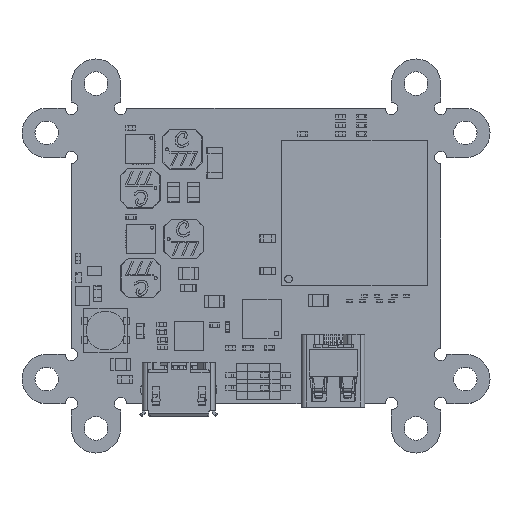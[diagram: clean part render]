
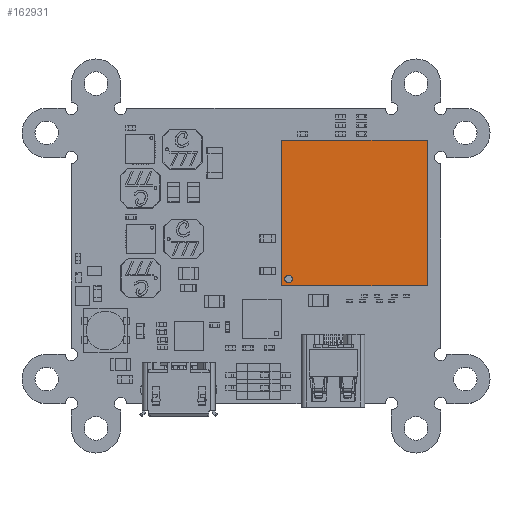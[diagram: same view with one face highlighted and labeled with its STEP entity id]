
A CAD part, top view. The second image highlights one B-rep face of the part: STEP entity #162931.
In plain terms, the highlighted planar face has unit normal (0, 0, 1).
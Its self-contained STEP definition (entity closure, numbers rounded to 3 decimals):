
#162617 = VERTEX_POINT('',#162618);
#162618 = CARTESIAN_POINT('',(-7.5,-7.5,1.25));
#162625 = PLANE('',#162626);
#162626 = AXIS2_PLACEMENT_3D('',#162627,#162628,#162629);
#162627 = CARTESIAN_POINT('',(-7.5,-7.5,0.));
#162628 = DIRECTION('',(0.,1.,0.));
#162629 = DIRECTION('',(1.,0.,0.));
#162637 = PLANE('',#162638);
#162638 = AXIS2_PLACEMENT_3D('',#162639,#162640,#162641);
#162639 = CARTESIAN_POINT('',(-7.5,7.5,0.));
#162640 = DIRECTION('',(1.,0.,0.));
#162641 = DIRECTION('',(0.,-1.,0.));
#162649 = EDGE_CURVE('',#162617,#162650,#162652,.T.);
#162650 = VERTEX_POINT('',#162651);
#162651 = CARTESIAN_POINT('',(7.5,-7.5,1.25));
#162652 = SURFACE_CURVE('',#162653,(#162657,#162664),.PCURVE_S1.);
#162653 = LINE('',#162654,#162655);
#162654 = CARTESIAN_POINT('',(-7.5,-7.5,1.25));
#162655 = VECTOR('',#162656,1.);
#162656 = DIRECTION('',(1.,0.,0.));
#162657 = PCURVE('',#162625,#162658);
#162658 = DEFINITIONAL_REPRESENTATION('',(#162659),#162663);
#162659 = LINE('',#162660,#162661);
#162660 = CARTESIAN_POINT('',(0.,-1.25));
#162661 = VECTOR('',#162662,1.);
#162662 = DIRECTION('',(1.,0.));
#162663 = ( GEOMETRIC_REPRESENTATION_CONTEXT(2) 
PARAMETRIC_REPRESENTATION_CONTEXT() REPRESENTATION_CONTEXT('2D SPACE',''
  ) );
#162664 = PCURVE('',#162665,#162670);
#162665 = PLANE('',#162666);
#162666 = AXIS2_PLACEMENT_3D('',#162667,#162668,#162669);
#162667 = CARTESIAN_POINT('',(-7.5,-7.5,1.25));
#162668 = DIRECTION('',(0.,0.,-1.));
#162669 = DIRECTION('',(-1.,0.,0.));
#162670 = DEFINITIONAL_REPRESENTATION('',(#162671),#162675);
#162671 = LINE('',#162672,#162673);
#162672 = CARTESIAN_POINT('',(0.,0.));
#162673 = VECTOR('',#162674,1.);
#162674 = DIRECTION('',(-1.,0.));
#162675 = ( GEOMETRIC_REPRESENTATION_CONTEXT(2) 
PARAMETRIC_REPRESENTATION_CONTEXT() REPRESENTATION_CONTEXT('2D SPACE',''
  ) );
#162693 = PLANE('',#162694);
#162694 = AXIS2_PLACEMENT_3D('',#162695,#162696,#162697);
#162695 = CARTESIAN_POINT('',(7.5,-7.5,0.));
#162696 = DIRECTION('',(-1.,0.,0.));
#162697 = DIRECTION('',(0.,1.,0.));
#162735 = EDGE_CURVE('',#162650,#162736,#162738,.T.);
#162736 = VERTEX_POINT('',#162737);
#162737 = CARTESIAN_POINT('',(7.5,7.5,1.25));
#162738 = SURFACE_CURVE('',#162739,(#162743,#162750),.PCURVE_S1.);
#162739 = LINE('',#162740,#162741);
#162740 = CARTESIAN_POINT('',(7.5,-7.5,1.25));
#162741 = VECTOR('',#162742,1.);
#162742 = DIRECTION('',(0.,1.,0.));
#162743 = PCURVE('',#162693,#162744);
#162744 = DEFINITIONAL_REPRESENTATION('',(#162745),#162749);
#162745 = LINE('',#162746,#162747);
#162746 = CARTESIAN_POINT('',(0.,-1.25));
#162747 = VECTOR('',#162748,1.);
#162748 = DIRECTION('',(1.,0.));
#162749 = ( GEOMETRIC_REPRESENTATION_CONTEXT(2) 
PARAMETRIC_REPRESENTATION_CONTEXT() REPRESENTATION_CONTEXT('2D SPACE',''
  ) );
#162750 = PCURVE('',#162665,#162751);
#162751 = DEFINITIONAL_REPRESENTATION('',(#162752),#162756);
#162752 = LINE('',#162753,#162754);
#162753 = CARTESIAN_POINT('',(-15.,0.));
#162754 = VECTOR('',#162755,1.);
#162755 = DIRECTION('',(0.,1.));
#162756 = ( GEOMETRIC_REPRESENTATION_CONTEXT(2) 
PARAMETRIC_REPRESENTATION_CONTEXT() REPRESENTATION_CONTEXT('2D SPACE',''
  ) );
#162774 = PLANE('',#162775);
#162775 = AXIS2_PLACEMENT_3D('',#162776,#162777,#162778);
#162776 = CARTESIAN_POINT('',(7.5,7.5,0.));
#162777 = DIRECTION('',(0.,-1.,0.));
#162778 = DIRECTION('',(-1.,0.,0.));
#162811 = EDGE_CURVE('',#162736,#162812,#162814,.T.);
#162812 = VERTEX_POINT('',#162813);
#162813 = CARTESIAN_POINT('',(-7.5,7.5,1.25));
#162814 = SURFACE_CURVE('',#162815,(#162819,#162826),.PCURVE_S1.);
#162815 = LINE('',#162816,#162817);
#162816 = CARTESIAN_POINT('',(7.5,7.5,1.25));
#162817 = VECTOR('',#162818,1.);
#162818 = DIRECTION('',(-1.,0.,0.));
#162819 = PCURVE('',#162774,#162820);
#162820 = DEFINITIONAL_REPRESENTATION('',(#162821),#162825);
#162821 = LINE('',#162822,#162823);
#162822 = CARTESIAN_POINT('',(0.,-1.25));
#162823 = VECTOR('',#162824,1.);
#162824 = DIRECTION('',(1.,0.));
#162825 = ( GEOMETRIC_REPRESENTATION_CONTEXT(2) 
PARAMETRIC_REPRESENTATION_CONTEXT() REPRESENTATION_CONTEXT('2D SPACE',''
  ) );
#162826 = PCURVE('',#162665,#162827);
#162827 = DEFINITIONAL_REPRESENTATION('',(#162828),#162832);
#162828 = LINE('',#162829,#162830);
#162829 = CARTESIAN_POINT('',(-15.,15.));
#162830 = VECTOR('',#162831,1.);
#162831 = DIRECTION('',(1.,0.));
#162832 = ( GEOMETRIC_REPRESENTATION_CONTEXT(2) 
PARAMETRIC_REPRESENTATION_CONTEXT() REPRESENTATION_CONTEXT('2D SPACE',''
  ) );
#162882 = EDGE_CURVE('',#162812,#162617,#162883,.T.);
#162883 = SURFACE_CURVE('',#162884,(#162888,#162895),.PCURVE_S1.);
#162884 = LINE('',#162885,#162886);
#162885 = CARTESIAN_POINT('',(-7.5,7.5,1.25));
#162886 = VECTOR('',#162887,1.);
#162887 = DIRECTION('',(0.,-1.,0.));
#162888 = PCURVE('',#162637,#162889);
#162889 = DEFINITIONAL_REPRESENTATION('',(#162890),#162894);
#162890 = LINE('',#162891,#162892);
#162891 = CARTESIAN_POINT('',(0.,-1.25));
#162892 = VECTOR('',#162893,1.);
#162893 = DIRECTION('',(1.,0.));
#162894 = ( GEOMETRIC_REPRESENTATION_CONTEXT(2) 
PARAMETRIC_REPRESENTATION_CONTEXT() REPRESENTATION_CONTEXT('2D SPACE',''
  ) );
#162895 = PCURVE('',#162665,#162896);
#162896 = DEFINITIONAL_REPRESENTATION('',(#162897),#162901);
#162897 = LINE('',#162898,#162899);
#162898 = CARTESIAN_POINT('',(0.,15.));
#162899 = VECTOR('',#162900,1.);
#162900 = DIRECTION('',(0.,-1.));
#162901 = ( GEOMETRIC_REPRESENTATION_CONTEXT(2) 
PARAMETRIC_REPRESENTATION_CONTEXT() REPRESENTATION_CONTEXT('2D SPACE',''
  ) );
#162931 = ADVANCED_FACE('',(#162932),#162665,.F.);
#162932 = FACE_BOUND('',#162933,.T.);
#162933 = EDGE_LOOP('',(#162934,#162935,#162936,#162937));
#162934 = ORIENTED_EDGE('',*,*,#162649,.T.);
#162935 = ORIENTED_EDGE('',*,*,#162735,.T.);
#162936 = ORIENTED_EDGE('',*,*,#162811,.T.);
#162937 = ORIENTED_EDGE('',*,*,#162882,.T.);
